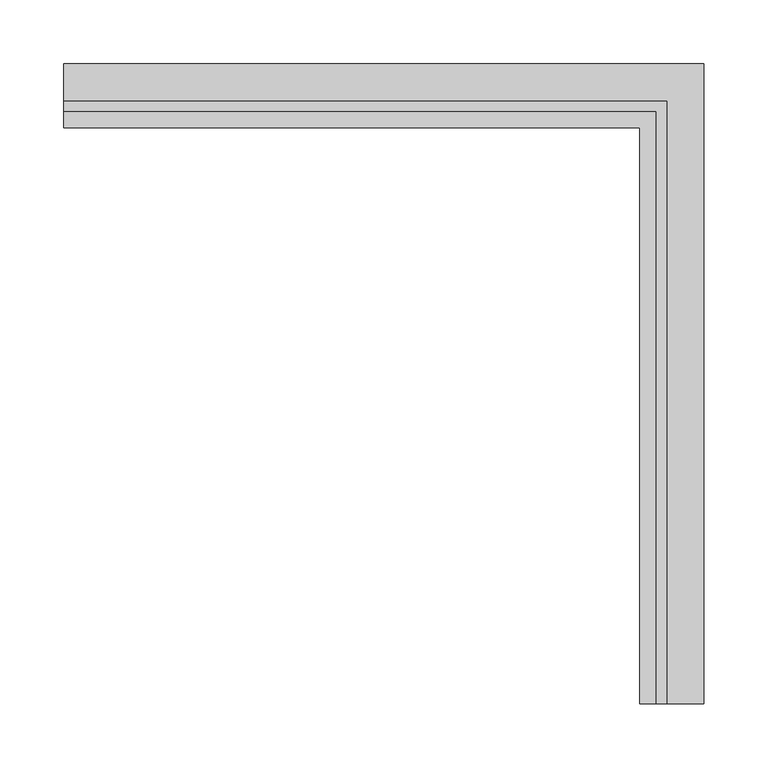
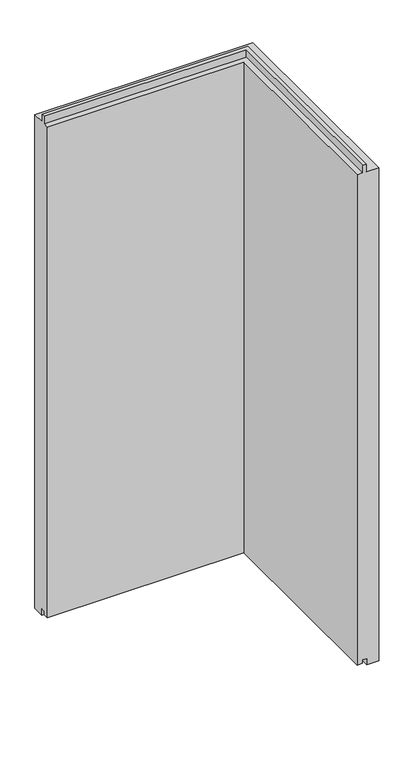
"""IFC4 building model written with IfcOpenShell, lengths in millimetres: plate geometry, Trimo_Qbiss Screen_L Corner Panel-HORIZONTAL : HR - FB."""

from ifc_helpers import new_model, si_unit, origin, place, context, project, spatial, faceted_brep, source, transform, mapped, element, save


def plate_bb49d724(model_context):
    return source(origin(), model_context, "Body", "Brep", [
        faceted_brep([(-193.75, 71.0, 1196.0), (-193.75, 100.0, 1196.0), (-193.75, 100.0, 0.0), (-193.75, 72.0, 0.0), (-193.75, 72.0, 15.5), (-193.75, 62.0, 15.5), (-193.75, 62.0, 7.0), (-193.75, 50.0, 7.0), (-193.75, 50.0, 1196.0), (-193.75, 63.0, 1196.0), (-193.75, 63.0, 1214.5), (-193.75, 71.0, 1214.5), (277.25, 71.0, 1196.0), (277.25, -400.0, 1196.0), (306.25, -400.0, 1196.0), (306.25, 100.0, 1196.0), (306.25, 100.0, 0.0), (306.25, -400.0, 0.0), (278.25, -400.0, 0.0), (278.25, 72.0, 0.0), (278.25, 72.0, 15.5), (278.25, -400.0, 15.5), (268.25, -400.0, 15.5), (268.25, 62.0, 15.5), (268.25, 62.0, 7.0), (268.25, -400.0, 7.0), (256.25, -400.0, 7.0), (256.25, 50.0, 7.0), (256.25, 50.0, 1196.0), (256.25, -400.0, 1196.0), (269.25, -400.0, 1196.0), (269.25, 63.0, 1196.0), (269.25, 63.0, 1214.5), (269.25, -400.0, 1214.5), (277.25, -400.0, 1214.5), (277.25, 71.0, 1214.5)], [[[0, 1, 2, 3, 4, 5, 6, 7, 8, 9, 10, 11]], [[1, 0, 12, 13, 14, 15]], [[2, 1, 15, 16]], [[3, 2, 16, 17, 18, 19]], [[4, 3, 19, 20]], [[5, 4, 20, 21, 22, 23]], [[6, 5, 23, 24]], [[7, 6, 24, 25, 26, 27]], [[8, 7, 27, 28]], [[9, 8, 28, 29, 30, 31]], [[10, 9, 31, 32]], [[11, 10, 32, 33, 34, 35]], [[0, 11, 35, 12]], [[13, 34, 33, 30, 29, 26, 25, 22, 21, 18, 17, 14]], [[16, 15, 14, 17]], [[20, 19, 18, 21]], [[24, 23, 22, 25]], [[28, 27, 26, 29]], [[32, 31, 30, 33]], [[12, 35, 34, 13]]]),
    ])


if __name__ == "__main__":
    model = new_model("IFC4")
    model_context = context("Model", 3, world=origin())
    ifc_project = project(units=[si_unit("LENGTHUNIT", "METRE", prefix="MILLI")], contexts=[model_context])
    site = spatial("IfcSite", under=ifc_project)
    building = spatial("IfcBuilding", under=site)
    placement = place(None, origin())
    plate_shape = plate_bb49d724(model_context)
    element("IfcPlate", 1, ObjectType="Trimo_Qbiss Screen_L Corner Panel-HORIZONTAL : HR - FB", at=placement, inside=building, context=model_context, shape_type="MappedRepresentation", body=[
        mapped(plate_shape, transform((0.0, 0.0, 0.0), x_axis=(1.0, 0.0, 0.0), y_axis=(0.0, 1.0, 0.0), z_axis=(0.0, 0.0, 1.0))),
    ])
    save(model, "model.ifc")
